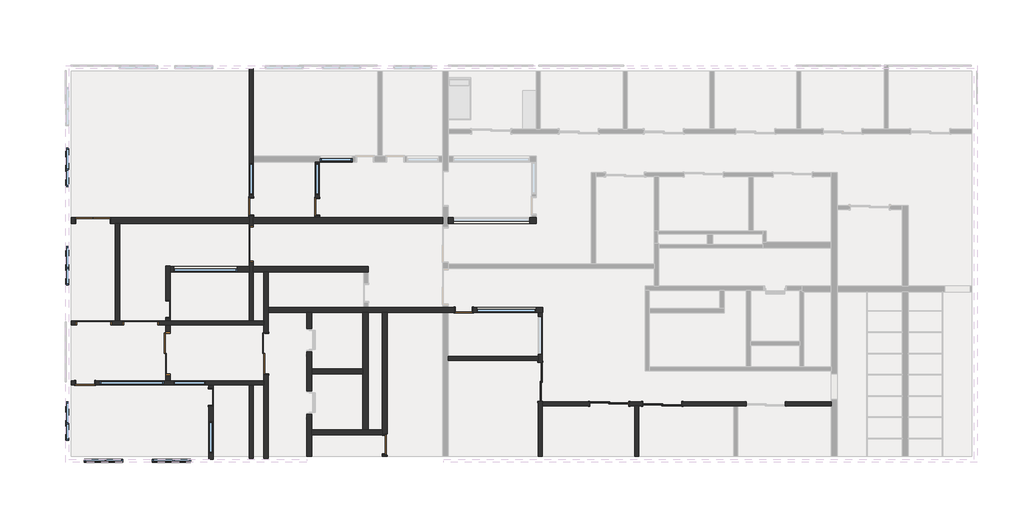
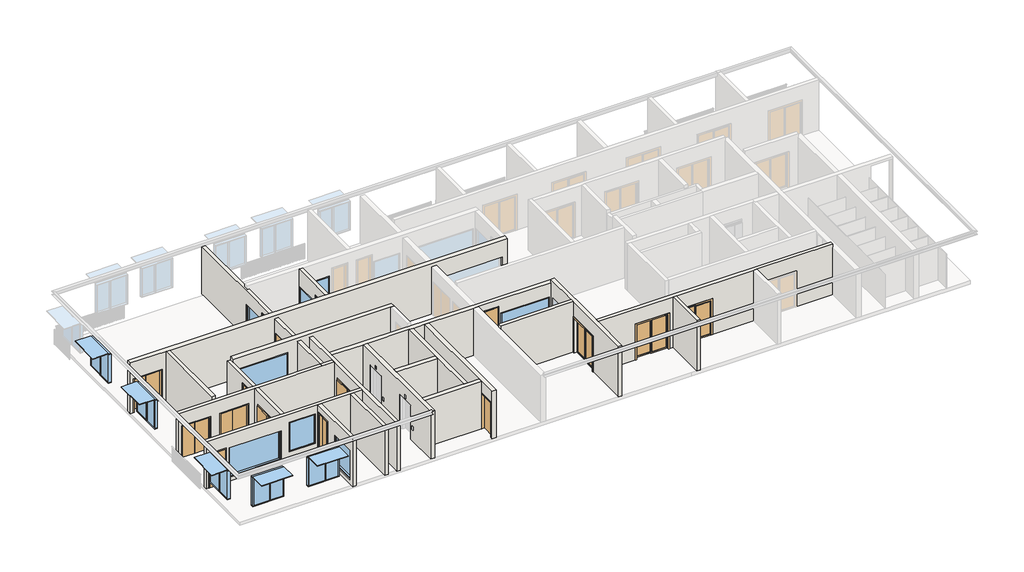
# One storey, part 1 of 5: 21 walls, 16 doors, 13 windows.
"""IFC4 building model written with IfcOpenShell, lengths in millimetres."""

from ifc_helpers import new_model, si_unit, frame, origin, place, context, project, spatial, polyline, outline, extrude, faceted_brep, transform, mapped, element, save
from components import sliding_2_panel_1830_x_2134mm_cc41b145, swing_double_aluminium_frame_door_2040x820x2_de6b5fd8, swing_double_aluminium_frame_door_2040x820x2_ba6f0609, swing_double_aluminium_frame_door_2040x820x2_040121c3, swing_double_metal_frame_double_2040_x_970x2_da7648d6, swing_metal_frame_single_dor_f6efc24d, swing_metal_frame_single_dor_45d69c81, swing_metal_frame_single_dor1_8b558513, swing_metal_frame_single_dor1_4c0ddaa6, swing_metal_frame_single_dor1_e173a355, window_bottom_hung_window_bottom_hung_3b05c637, window_fixed_1500mm_wide_9b338267, window_fixed_1500mm_wide_722047fe, window_fixed_2800mm_wide_54336a60, window_fixed_3000mm_wide_e2b4e5f3, window_fixed_3000mm_wide_c56ea942

model = new_model("IFC4")

# Units and contexts
model_context = context("Model", 3, world=origin())
ifc_project = project(units=[si_unit("LENGTHUNIT", "METRE", prefix="MILLI")], contexts=[model_context])

# Site, building, storey
site = spatial("IfcSite", under=ifc_project)
building = spatial("IfcBuilding", under=site)
storey = spatial("IfcBuildingStorey", under=building, Name="3階", Elevation=36100.0)

# Doors
placement = place(None, origin())
sliding_2_panel_1830_x_2134mm_shape = sliding_2_panel_1830_x_2134mm_cc41b145(model_context)
element("IfcDoor", 1, ObjectType="Sliding-2 Panel : 1830 x 2134mm", at=placement, inside=storey, context=model_context, shape_type="MappedRepresentation", body=[
    mapped(sliding_2_panel_1830_x_2134mm_shape, transform((24561.4034243, 3821.0253504, 36100.0), x_axis=(0.0, -1.0, 0.0), y_axis=(1.0, 0.0, 0.0), z_axis=(0.0, 0.0, 1.0))),
])
element("IfcDoor", 2, ObjectType="Sliding-2 Panel : 1830 x 2134mm", at=placement, inside=storey, context=model_context, shape_type="MappedRepresentation", body=[
    mapped(sliding_2_panel_1830_x_2134mm_shape, transform((27922.1585166, 2663.005792, 36100.0), x_axis=(1.0, 0.0, 0.0), y_axis=(0.0, 1.0, 0.0), z_axis=(0.0, 0.0, 1.0))),
])
element("IfcDoor", 3, ObjectType="Sliding-2 Panel : 1830 x 2134mm", at=placement, inside=storey, context=model_context, shape_type="MappedRepresentation", body=[
    mapped(sliding_2_panel_1830_x_2134mm_shape, transform((30422.1585166, 2917.005792, 36100.0), x_axis=(-1.0, 0.0, 0.0), y_axis=(0.0, -1.0, 0.0), z_axis=(0.0, 0.0, 1.0))),
])
swing_double_aluminium_frame_door_2040x820x2_shape = swing_double_aluminium_frame_door_2040x820x2_de6b5fd8(model_context)
element("IfcDoor", 4, ObjectType="Swing_Double : Aluminium Frame Door 2040x820x2", at=placement, inside=storey, context=model_context, shape_type="MappedRepresentation", body=[
    mapped(swing_double_aluminium_frame_door_2040x820x2_shape, transform((6116.1057353, 6597.0008144, 36100.0), x_axis=(1.0, 0.0, 0.0), y_axis=(0.0, 1.0, 0.0), z_axis=(0.0, 0.0, 1.0))),
])
swing_double_aluminium_frame_door_2040x820x2_2_shape = swing_double_aluminium_frame_door_2040x820x2_ba6f0609(model_context)
element("IfcDoor", 5, ObjectType="Swing_Double : Aluminium Frame Door 2040x820x2", at=placement, inside=storey, context=model_context, shape_type="MappedRepresentation", body=[
    mapped(swing_double_aluminium_frame_door_2040x820x2_2_shape, transform((11094.6062665, 10104.2680774, 36100.0), x_axis=(0.0, -1.0, 0.0), y_axis=(1.0, 0.0, 0.0), z_axis=(0.0, 0.0, 1.0))),
])
element("IfcDoor", 6, ObjectType="Swing_Double : Aluminium Frame Door 2040x820x2", at=placement, inside=storey, context=model_context, shape_type="MappedRepresentation", body=[
    mapped(swing_double_aluminium_frame_door_2040x820x2_2_shape, transform((3473.1057353, 6597.0008144, 36100.0), x_axis=(-1.0, 0.0, 0.0), y_axis=(0.0, -1.0, 0.0), z_axis=(0.0, 0.0, 1.0))),
])
swing_double_aluminium_frame_door_2040x820x2_3_shape = swing_double_aluminium_frame_door_2040x820x2_040121c3(model_context)
element("IfcDoor", 7, ObjectType="Swing_Double : Aluminium Frame Door 2040x820x2", at=placement, inside=storey, context=model_context, shape_type="MappedRepresentation", body=[
    mapped(swing_double_aluminium_frame_door_2040x820x2_3_shape, transform((3866.1057353, 11415.7680774, 36100.0), x_axis=(1.0, 0.0, 0.0), y_axis=(0.0, 1.0, 0.0), z_axis=(0.0, 0.0, 1.0))),
])
swing_double_metal_frame_double_2040_x_970x2_shape = swing_double_metal_frame_double_2040_x_970x2_da7648d6(model_context)
element("IfcDoor", 8, ObjectType="Swing_Double : Metal Frame Double - 2040 x 970x2", at=placement, inside=storey, context=model_context, shape_type="MappedRepresentation", body=[
    mapped(swing_double_metal_frame_double_2040_x_970x2_shape, transform((11794.6062665, 4947.7678956, 36100.0), x_axis=(0.0, -1.0, 0.0), y_axis=(1.0, 0.0, 0.0), z_axis=(0.0, 0.0, 1.0))),
])
element("IfcDoor", 9, ObjectType="Swing_Double : Metal Frame Double - 2040 x 970x2", at=placement, inside=storey, context=model_context, shape_type="MappedRepresentation", body=[
    mapped(swing_double_metal_frame_double_2040_x_970x2_shape, transform((7179.6062665, 4947.7678956, 36100.0), x_axis=(0.0, -1.0, 0.0), y_axis=(1.0, 0.0, 0.0), z_axis=(0.0, 0.0, 1.0))),
])
swing_metal_frame_single_dor_shape = swing_metal_frame_single_dor_f6efc24d(model_context)
element("IfcDoor", 10, ObjectType="Swing_Metal Frame_Single_DOR : 2140h x 920 (2210x1010 BLK)", at=placement, inside=storey, context=model_context, shape_type="MappedRepresentation", body=[
    mapped(swing_metal_frame_single_dor_shape, transform((17369.6062665, 870.0, 36100.0), x_axis=(0.0, 1.0, 0.0), y_axis=(-1.0, 0.0, 0.0), z_axis=(0.0, 0.0, 1.0))),
])
swing_metal_frame_single_dor_2_shape = swing_metal_frame_single_dor_45d69c81(model_context)
element("IfcDoor", 11, ObjectType="Swing_Metal Frame_Single_DOR : 2040h x 920 (2110x1020 STUD)", at=placement, inside=storey, context=model_context, shape_type="MappedRepresentation", body=[
    mapped(swing_metal_frame_single_dor_2_shape, transform((3284.6057353, 3773.0, 36100.0), x_axis=(1.0, 0.0, 0.0), y_axis=(0.0, 1.0, 0.0), z_axis=(0.0, 0.0, 1.0))),
])
swing_metal_frame_single_dor1_shape = swing_metal_frame_single_dor1_8b558513(model_context)
element("IfcDoor", 12, ObjectType="Swing_Metal Frame_Single_DOR1 : 2040h x 820 (2110x920 STUD)", at=placement, inside=storey, context=model_context, shape_type="MappedRepresentation", body=[
    mapped(swing_metal_frame_single_dor1_shape, transform((11094.6062665, 12075.7680774, 36100.0), x_axis=(0.0, 1.0, 0.0), y_axis=(-1.0, 0.0, 0.0), z_axis=(0.0, 0.0, 1.0))),
])
element("IfcDoor", 13, ObjectType="Swing_Metal Frame_Single_DOR1 : 2040h x 820 (2110x920 STUD)", at=placement, inside=storey, context=model_context, shape_type="MappedRepresentation", body=[
    mapped(swing_metal_frame_single_dor1_shape, transform((9199.7452287, 3113.0, 36100.0), x_axis=(0.0, -1.0, 0.0), y_axis=(1.0, 0.0, 0.0), z_axis=(0.0, 0.0, 1.0))),
])
element("IfcDoor", 14, ObjectType="Swing_Metal Frame_Single_DOR1 : 2040h x 820 (2110x920 STUD)", at=placement, inside=storey, context=model_context, shape_type="MappedRepresentation", body=[
    mapped(swing_metal_frame_single_dor1_shape, transform((14194.6062665, 12065.7680774, 36100.0), x_axis=(0.0, 1.0, 0.0), y_axis=(-1.0, 0.0, 0.0), z_axis=(0.0, 0.0, 1.0))),
])
swing_metal_frame_single_dor1_2_shape = swing_metal_frame_single_dor1_4c0ddaa6(model_context)
element("IfcDoor", 15, ObjectType="Swing_Metal Frame_Single_DOR1 : 2040h x 820 (2110x920 STUD)", at=placement, inside=storey, context=model_context, shape_type="MappedRepresentation", body=[
    mapped(swing_metal_frame_single_dor1_2_shape, transform((7179.6062665, 7251.2680774, 36100.0), x_axis=(0.0, 1.0, 0.0), y_axis=(-1.0, 0.0, 0.0), z_axis=(0.0, 0.0, 1.0))),
])
swing_metal_frame_single_dor1_3_shape = swing_metal_frame_single_dor1_e173a355(model_context)
element("IfcDoor", 16, ObjectType="Swing_Metal Frame_Single_DOR1 : 2040h x 820 (2110x920 STUD)", at=placement, inside=storey, context=model_context, shape_type="MappedRepresentation", body=[
    mapped(swing_metal_frame_single_dor1_3_shape, transform((21088.4034243, 7210.0, 36100.0), x_axis=(1.0, 0.0, 0.0), y_axis=(0.0, 1.0, 0.0), z_axis=(0.0, 0.0, 1.0))),
])

# Walls
element("IfcWall", 17, ObjectType="Brickwork_Double_270mm", at=placement, inside=storey, context=model_context, shape_type="Brep", body=[
    faceted_brep([(16594.6062665, 8996.2680774, 39200.0), (16394.6062665, 8996.2680774, 39200.0), (7279.6062665, 8996.2680774, 39200.0), (7279.6062665, 8996.2680774, 36100.0), (10994.6062665, 8996.2680774, 36100.0), (10994.6062665, 8996.2680774, 39000.0), (11194.6062665, 8996.2680774, 39000.0), (11194.6062665, 8996.2680774, 36100.0), (16394.6062665, 8996.2680774, 36100.0), (16594.6062665, 8996.2680774, 36100.0), (10439.6062665, 8996.2680774, 38500.0), (10439.6062665, 8996.2680774, 36700.0), (7439.6062665, 8996.2680774, 36700.0), (7439.6062665, 8996.2680774, 38500.0), (7279.6062665, 9266.2680774, 39200.0), (16594.6062665, 9266.2680774, 39200.0), (16594.6062665, 9266.2680774, 36100.0), (11194.6062665, 9266.2680774, 36100.0), (11194.6062665, 9266.2680774, 39000.0), (10994.6062665, 9266.2680774, 39000.0), (10994.6062665, 9266.2680774, 36100.0), (7279.6062665, 9266.2680774, 36100.0), (10439.6062665, 9266.2680774, 36700.0), (10439.6062665, 9266.2680774, 38500.0), (7439.6062665, 9266.2680774, 38500.0), (7439.6062665, 9266.2680774, 36700.0)], [[[0, 1, 2, 3, 4, 5, 6, 7, 8, 9], [10, 11, 12, 13]], [[14, 15, 16, 17, 18, 19, 20, 21], [22, 23, 24, 25]], [[3, 21, 20, 4]], [[16, 9, 8, 7, 17]], [[2, 1, 0, 15, 14]], [[6, 18, 17, 7]], [[18, 6, 5, 19]], [[19, 5, 4, 20]], [[3, 2, 14, 21]], [[11, 10, 23, 22]], [[10, 13, 24, 23]], [[13, 12, 25, 24]], [[0, 9, 16, 15]], [[11, 22, 25, 12]]]),
])
element("IfcWall", 18, ObjectType="Brickwork_Double_270mm", at=placement, inside=storey, context=model_context, shape_type="Brep", body=[
    faceted_brep([(24488.4034243, 11280.7680774, 39200.0), (4904.6057353, 11280.7680774, 39200.0), (4704.6057353, 11280.7680774, 39200.0), (2639.6057353, 11280.7680774, 39200.0), (2639.6057353, 11280.7680774, 36100.0), (2813.6057353, 11280.7680774, 36100.0), (2813.6057353, 11280.7680774, 38181.0), (4495.6057353, 11280.7680774, 38181.0), (4495.6057353, 11280.7680774, 36100.0), (4704.6057353, 11280.7680774, 36100.0), (4904.6057353, 11280.7680774, 36100.0), (10994.6062665, 11280.7680774, 36100.0), (10994.6062665, 11280.7680774, 39000.0), (11194.6062665, 11280.7680774, 39000.0), (11194.6062665, 11280.7680774, 36100.0), (20094.6062665, 11280.7680774, 36100.0), (20094.6062665, 11280.7680774, 39000.0), (20364.6062665, 11280.7680774, 39000.0), (20364.6062665, 11280.7680774, 36100.0), (24488.4034243, 11280.7680774, 36100.0), (20588.4034243, 11280.7680774, 36350.0), (20588.4034243, 11280.7680774, 38150.0), (24188.4034243, 11280.7680774, 38150.0), (24188.4034243, 11280.7680774, 36350.0), (2639.6057353, 11550.7680774, 39200.0), (14094.6062665, 11550.7680774, 39200.0), (14294.6062665, 11550.7680774, 39200.0), (24288.4034243, 11550.7680774, 39200.0), (24488.4034243, 11550.7680774, 39200.0), (24488.4034243, 11550.7680774, 36100.0), (24288.4034243, 11550.7680774, 36100.0), (20364.6062665, 11550.7680774, 36100.0), (20364.6062665, 11550.7680774, 39000.0), (20094.6062665, 11550.7680774, 39000.0), (20094.6062665, 11550.7680774, 36100.0), (14294.6062665, 11550.7680774, 36100.0), (14094.6062665, 11550.7680774, 36100.0), (11194.6062665, 11550.7680774, 36100.0), (11194.6062665, 11550.7680774, 39000.0), (10994.6062665, 11550.7680774, 39000.0), (10994.6062665, 11550.7680774, 36100.0), (4495.6057353, 11550.7680774, 36100.0), (4495.6057353, 11550.7680774, 38181.0), (2813.6057353, 11550.7680774, 38181.0), (2813.6057353, 11550.7680774, 36100.0), (2639.6057353, 11550.7680774, 36100.0), (20588.4034243, 11550.7680774, 38150.0), (20588.4034243, 11550.7680774, 36350.0), (24188.4034243, 11550.7680774, 36350.0), (24188.4034243, 11550.7680774, 38150.0)], [[[0, 1, 2, 3, 4, 5, 6, 7, 8, 9, 10, 11, 12, 13, 14, 15, 16, 17, 18, 19], [20, 21, 22, 23]], [[24, 25, 26, 27, 28, 29, 30, 31, 32, 33, 34, 35, 36, 37, 38, 39, 40, 41, 42, 43, 44, 45], [46, 47, 48, 49]], [[4, 45, 44, 5]], [[40, 11, 10, 9, 8, 41]], [[14, 37, 36, 35, 34, 15]], [[29, 19, 18, 31, 30]], [[3, 2, 1, 0, 28, 27, 26, 25, 24]], [[4, 3, 24, 45]], [[13, 38, 37, 14]], [[39, 12, 11, 40]], [[38, 13, 12, 39]], [[6, 5, 44, 43]], [[7, 6, 43, 42]], [[8, 7, 42, 41]], [[33, 16, 15, 34]], [[16, 33, 32, 17]], [[17, 32, 31, 18]], [[0, 19, 29, 28]], [[21, 20, 47, 46]], [[22, 21, 46, 49]], [[23, 22, 49, 48]], [[20, 23, 48, 47]]]),
])
element("IfcWall", 19, ObjectType="C1 - Concrete Type 2", at=placement, inside=storey, context=model_context, shape_type="Brep", body=[
    faceted_brep([(4525.6057353, 6497.0008144, 38181.0), (4525.6057353, 6497.0008144, 36100.0), (5063.6057353, 6497.0008144, 36100.0), (5063.6057353, 6497.0008144, 38181.0), (6745.6057353, 6497.0008144, 38181.0), (6745.6057353, 6497.0008144, 36100.0), (7079.6062665, 6497.0008144, 36100.0), (7279.6062665, 6497.0008144, 36100.0), (11694.6062665, 6497.0008144, 36100.0), (11694.6062665, 6497.0008144, 39000.0), (7279.6062665, 6497.0008144, 39000.0), (7079.6062665, 6497.0008144, 39000.0), (2639.6057353, 6497.0008144, 39000.0), (2639.6057353, 6497.0008144, 36100.0), (2843.6057353, 6497.0008144, 36100.0), (2843.6057353, 6497.0008144, 38181.0), (5063.6057353, 6697.0008144, 36100.0), (4904.6057353, 6697.0008144, 36100.0), (4704.6057353, 6697.0008144, 36100.0), (4525.6057353, 6697.0008144, 36100.0), (4525.6057353, 6697.0008144, 38181.0), (2843.6057353, 6697.0008144, 38181.0), (2843.6057353, 6697.0008144, 36100.0), (2639.6057353, 6697.0008144, 36100.0), (2639.6057353, 6697.0008144, 39000.0), (7079.6062665, 6697.0008144, 39000.0), (7279.6062665, 6697.0008144, 39000.0), (11694.6062665, 6697.0008144, 39000.0), (11694.6062665, 6697.0008144, 36100.0), (7279.6062665, 6697.0008144, 36100.0), (7079.6062665, 6697.0008144, 36100.0), (6745.6057353, 6697.0008144, 36100.0), (6745.6057353, 6697.0008144, 38181.0), (5063.6057353, 6697.0008144, 38181.0)], [[[0, 1, 2, 3, 4, 5, 6, 7, 8, 9, 10, 11, 12, 13, 14, 15]], [[16, 17, 18, 19, 20, 21, 22, 23, 24, 25, 26, 27, 28, 29, 30, 31, 32, 33]], [[14, 13, 23, 22]], [[2, 1, 19, 18, 17, 16]], [[31, 30, 29, 28, 8, 7, 6, 5]], [[12, 11, 10, 9, 27, 26, 25, 24]], [[9, 8, 28, 27]], [[13, 12, 24, 23]], [[3, 2, 16, 33]], [[4, 3, 33, 32]], [[5, 4, 32, 31]], [[20, 19, 1, 0]], [[21, 20, 0, 15]], [[22, 21, 15, 14]]]),
])
element("IfcWall", 20, ObjectType="C1 - Concrete Type 2", at=placement, inside=storey, context=model_context, shape_type="Brep", body=[
    faceted_brep([(11194.6062665, 18575.0, 36100.0), (11194.6062665, 18575.0, 39000.0), (11194.6062665, 14450.7680774, 39000.0), (11194.6062665, 14180.7680774, 39000.0), (11194.6062665, 11550.7680774, 39000.0), (11194.6062665, 11280.7680774, 39000.0), (11194.6062665, 9266.2680774, 39000.0), (11194.6062665, 8996.2680774, 39000.0), (11194.6062665, 6497.0008144, 39000.0), (11194.6062665, 6497.0008144, 36100.0), (11194.6062665, 8996.2680774, 36100.0), (11194.6062665, 9266.2680774, 36100.0), (11194.6062665, 9474.7680774, 36100.0), (11194.6062665, 9474.7680774, 38181.0), (11194.6062665, 11156.7680774, 38181.0), (11194.6062665, 11156.7680774, 36100.0), (11194.6062665, 11280.7680774, 36100.0), (11194.6062665, 11550.7680774, 36100.0), (11194.6062665, 11635.7680774, 36100.0), (11194.6062665, 11635.7680774, 38590.0), (11194.6062665, 12515.7680774, 38590.0), (11194.6062665, 12515.7680774, 36100.0), (11194.6062665, 14180.7680774, 36100.0), (11194.6062665, 14450.7680774, 36100.0), (11194.6062665, 14125.7680774, 36350.0), (11194.6062665, 12625.7680774, 36350.0), (11194.6062665, 12625.7680774, 38150.0), (11194.6062665, 14125.7680774, 38150.0), (10994.6062665, 18575.0, 39000.0), (10994.6062665, 18575.0, 36100.0), (10994.6062665, 12515.7680774, 36100.0), (10994.6062665, 12515.7680774, 38590.0), (10994.6062665, 11635.7680774, 38590.0), (10994.6062665, 11635.7680774, 36100.0), (10994.6062665, 11550.7680774, 36100.0), (10994.6062665, 11280.7680774, 36100.0), (10994.6062665, 11156.7680774, 36100.0), (10994.6062665, 11156.7680774, 38181.0), (10994.6062665, 9474.7680774, 38181.0), (10994.6062665, 9474.7680774, 36100.0), (10994.6062665, 9266.2680774, 36100.0), (10994.6062665, 8996.2680774, 36100.0), (10994.6062665, 6497.0008144, 36100.0), (10994.6062665, 6497.0008144, 39000.0), (10994.6062665, 8996.2680774, 39000.0), (10994.6062665, 9266.2680774, 39000.0), (10994.6062665, 11280.7680774, 39000.0), (10994.6062665, 11550.7680774, 39000.0), (10994.6062665, 14125.7680774, 36350.0), (10994.6062665, 14125.7680774, 38150.0), (10994.6062665, 12625.7680774, 38150.0), (10994.6062665, 12625.7680774, 36350.0)], [[[0, 1, 2, 3, 4, 5, 6, 7, 8, 9, 10, 11, 12, 13, 14, 15, 16, 17, 18, 19, 20, 21, 22, 23], [24, 25, 26, 27]], [[28, 29, 30, 31, 32, 33, 34, 35, 36, 37, 38, 39, 40, 41, 42, 43, 44, 45, 46, 47], [48, 49, 50, 51]], [[29, 0, 23, 22, 21, 30]], [[9, 42, 41, 40, 39, 12, 11, 10]], [[15, 36, 35, 34, 33, 18, 17, 16]], [[1, 0, 29, 28]], [[8, 7, 6, 5, 4, 3, 2, 1, 28, 47, 46, 45, 44, 43]], [[9, 8, 43, 42]], [[37, 36, 15, 14]], [[38, 37, 14, 13]], [[39, 38, 13, 12]], [[20, 31, 30, 21]], [[31, 20, 19, 32]], [[32, 19, 18, 33]], [[49, 48, 24, 27]], [[50, 49, 27, 26]], [[51, 50, 26, 25]], [[48, 51, 25, 24]]]),
])
element("IfcWall", 21, ObjectType="C1 - Concrete Type 2", at=placement, inside=storey, context=model_context, shape_type="Brep", body=[
    faceted_brep([(11694.6062665, 3673.0, 39000.0), (2639.6057353, 3673.0, 39000.0), (2639.6057353, 3673.0, 36100.0), (2794.6057353, 3673.0, 36100.0), (2794.6057353, 3673.0, 38190.0), (3774.6057353, 3673.0, 38190.0), (3774.6057353, 3673.0, 36100.0), (11694.6062665, 3673.0, 36100.0), (8944.6062665, 3673.0, 38500.0), (8944.6062665, 3673.0, 36700.0), (7444.6062665, 3673.0, 36700.0), (7444.6062665, 3673.0, 38500.0), (3974.6062665, 3673.0, 36350.0), (3974.6062665, 3673.0, 38150.0), (6974.6062665, 3673.0, 38150.0), (6974.6062665, 3673.0, 36350.0), (2639.6057353, 3873.0, 39000.0), (7079.6062665, 3873.0, 39000.0), (7279.6062665, 3873.0, 39000.0), (11694.6062665, 3873.0, 39000.0), (11694.6062665, 3873.0, 36100.0), (7279.6062665, 3873.0, 36100.0), (7079.6062665, 3873.0, 36100.0), (3774.6057353, 3873.0, 36100.0), (3774.6057353, 3873.0, 38190.0), (2794.6057353, 3873.0, 38190.0), (2794.6057353, 3873.0, 36100.0), (2639.6057353, 3873.0, 36100.0), (8944.6062665, 3873.0, 36700.0), (8944.6062665, 3873.0, 38500.0), (7444.6062665, 3873.0, 38500.0), (7444.6062665, 3873.0, 36700.0), (3974.6062665, 3873.0, 38150.0), (3974.6062665, 3873.0, 36350.0), (6974.6062665, 3873.0, 36350.0), (6974.6062665, 3873.0, 38150.0)], [[[0, 1, 2, 3, 4, 5, 6, 7], [8, 9, 10, 11], [12, 13, 14, 15]], [[16, 17, 18, 19, 20, 21, 22, 23, 24, 25, 26, 27], [28, 29, 30, 31], [32, 33, 34, 35]], [[20, 7, 6, 23, 22, 21]], [[2, 27, 26, 3]], [[1, 0, 19, 18, 17, 16]], [[0, 7, 20, 19]], [[2, 1, 16, 27]], [[5, 24, 23, 6]], [[24, 5, 4, 25]], [[25, 4, 3, 26]], [[28, 9, 8, 29]], [[29, 8, 11, 30]], [[30, 11, 10, 31]], [[9, 28, 31, 10]], [[12, 33, 32, 13]], [[13, 32, 35, 14]], [[34, 15, 14, 35]], [[33, 12, 15, 34]]]),
])
element("IfcWall", 22, ObjectType="C1 - Concrete Type 2", at=placement, inside=storey, context=model_context, shape_type="SweptSolid", body=[
    extrude(outline(polyline([(11194.6062665, 3873.0), (11194.6062665, 235.0), (10994.6062665, 235.0), (10994.6062665, 3873.0), (11194.6062665, 3873.0)])), frame((0.0, 0.0, 36100.0), z_axis=(0.0, 0.0, 1.0), x_axis=(1.0, 0.0, 0.0)), (0.0, 0.0, 1.0), 2900.0),
])
element("IfcWall", 23, ObjectType="C1 - Concrete Type 2", at=placement, inside=storey, context=model_context, shape_type="Brep", body=[
    faceted_brep([(11894.6062665, 8997.0008144, 36100.0), (11894.6062665, 8997.0008144, 39000.0), (11894.6062665, 7335.0, 39000.0), (11894.6062665, 7085.0, 39000.0), (11894.6062665, 235.0, 39000.0), (11894.6062665, 235.0, 36100.0), (11894.6062665, 4159.2678956, 36100.0), (11894.6062665, 4159.2678956, 38190.0), (11894.6062665, 6159.2678956, 38190.0), (11894.6062665, 6159.2678956, 36100.0), (11894.6062665, 7085.0, 36100.0), (11894.6062665, 7335.0, 36100.0), (11694.6062665, 8997.0008144, 39000.0), (11694.6062665, 8997.0008144, 36100.0), (11694.6062665, 6697.0008144, 36100.0), (11694.6062665, 6497.0008144, 36100.0), (11694.6062665, 6159.2678956, 36100.0), (11694.6062665, 6159.2678956, 38190.0), (11694.6062665, 4159.2678956, 38190.0), (11694.6062665, 4159.2678956, 36100.0), (11694.6062665, 3873.0, 36100.0), (11694.6062665, 3673.0, 36100.0), (11694.6062665, 235.0, 36100.0), (11694.6062665, 235.0, 39000.0), (11694.6062665, 3673.0, 39000.0), (11694.6062665, 3873.0, 39000.0), (11694.6062665, 6497.0008144, 39000.0), (11694.6062665, 6697.0008144, 39000.0)], [[[0, 1, 2, 3, 4, 5, 6, 7, 8, 9, 10, 11]], [[12, 13, 14, 15, 16, 17, 18, 19, 20, 21, 22, 23, 24, 25, 26, 27]], [[13, 0, 11, 10, 9, 16, 15, 14]], [[5, 22, 21, 20, 19, 6]], [[1, 0, 13, 12]], [[4, 3, 2, 1, 12, 27, 26, 25, 24, 23]], [[5, 4, 23, 22]], [[8, 17, 16, 9]], [[17, 8, 7, 18]], [[18, 7, 6, 19]]]),
])
element("IfcWall", 24, ObjectType="C1 - Concrete Type 2", at=placement, inside=storey, context=model_context, shape_type="Brep", body=[
    faceted_brep([(7279.6062665, 9273.0, 36100.0), (7279.6062665, 9273.0, 39000.0), (7279.6062665, 6697.0008144, 39000.0), (7279.6062665, 6697.0008144, 36100.0), (7279.6062665, 6811.2680774, 36100.0), (7279.6062665, 6811.2680774, 38590.0), (7279.6062665, 7691.2680774, 38590.0), (7279.6062665, 7691.2680774, 36100.0), (7279.6062665, 8996.2680774, 36100.0), (7279.6062665, 9266.2680774, 36100.0), (7079.6062665, 9273.0, 39000.0), (7079.6062665, 9273.0, 36100.0), (7079.6062665, 7691.2680774, 36100.0), (7079.6062665, 7691.2680774, 38590.0), (7079.6062665, 6811.2680774, 38590.0), (7079.6062665, 6811.2680774, 36100.0), (7079.6062665, 6697.0008144, 36100.0), (7079.6062665, 6697.0008144, 39000.0)], [[[0, 1, 2, 3, 4, 5, 6, 7, 8, 9]], [[10, 11, 12, 13, 14, 15, 16, 17]], [[11, 0, 9, 8, 7, 12]], [[3, 16, 15, 4]], [[1, 0, 11, 10]], [[1, 10, 17, 2]], [[3, 2, 17, 16]], [[7, 6, 13, 12]], [[6, 5, 14, 13]], [[5, 4, 15, 14]]]),
    faceted_brep([(7279.6062665, 6159.2678956, 38190.0), (7279.6062665, 6159.2678956, 36100.0), (7279.6062665, 6497.0008144, 36100.0), (7279.6062665, 6497.0008144, 39000.0), (7279.6062665, 3873.0, 39000.0), (7279.6062665, 3873.0, 36100.0), (7279.6062665, 4159.2678956, 36100.0), (7279.6062665, 4159.2678956, 38190.0), (7079.6062665, 6159.2678956, 36100.0), (7079.6062665, 6159.2678956, 38190.0), (7079.6062665, 4159.2678956, 38190.0), (7079.6062665, 4159.2678956, 36100.0), (7079.6062665, 3873.0, 36100.0), (7079.6062665, 3873.0, 39000.0), (7079.6062665, 6497.0008144, 39000.0), (7079.6062665, 6497.0008144, 36100.0)], [[[0, 1, 2, 3, 4, 5, 6, 7]], [[8, 9, 10, 11, 12, 13, 14, 15]], [[1, 8, 15, 2]], [[11, 6, 5, 12]], [[3, 14, 13, 4]], [[1, 0, 9, 8]], [[0, 7, 10, 9]], [[7, 6, 11, 10]], [[3, 2, 15, 14]], [[5, 4, 13, 12]]]),
])
element("IfcWall", 25, ObjectType="C1 - Concrete Type 2", at=placement, inside=storey, context=model_context, shape_type="SweptSolid", body=[
    extrude(outline(polyline([(3773.0, 39000.0), (3773.0, 36100.0), (3553.0, 36100.0), (3553.0, 38590.0), (2673.0, 38590.0), (2673.0, 36100.0), (174.0898177, 36100.0), (174.0898177, 39000.0), (3773.0, 39000.0)]), holes=[polyline([(1963.0, 38150.0), (463.0, 38150.0), (463.0, 36350.0), (1963.0, 36350.0), (1963.0, 38150.0)])]), frame((9099.7452287, 0.0, 0.0), z_axis=(1.0, 0.0, 0.0), x_axis=(0.0, 1.0, 0.0)), (0.0, 0.0, 1.0), 200.0),
])
element("IfcWall", 26, ObjectType="C1 - Concrete Type 2", at=placement, inside=storey, context=model_context, shape_type="SweptSolid", body=[
    extrude(outline(polyline([(4904.6057353, 11280.7680774), (4904.6057353, 6697.0008144), (4704.6057353, 6697.0008144), (4704.6057353, 11280.7680774), (4904.6057353, 11280.7680774)])), frame((0.0, 0.0, 36100.0), z_axis=(0.0, 0.0, 1.0), x_axis=(1.0, 0.0, 0.0)), (0.0, 0.0, 1.0), 3100.0),
])
element("IfcWall", 27, ObjectType="C1 - Concrete Type 2", at=placement, inside=storey, context=model_context, shape_type="SweptSolid", body=[
    extrude(outline(polyline([(11550.7680774, 39200.0), (14180.7680774, 39200.0), (14180.7680774, 36100.0), (12505.7680774, 36100.0), (12505.7680774, 38590.0), (11625.7680774, 38590.0), (11625.7680774, 36100.0), (11550.7680774, 36100.0), (11550.7680774, 39200.0)]), holes=[polyline([(12625.7680774, 36350.0), (14125.7680774, 36350.0), (14125.7680774, 38150.0), (12625.7680774, 38150.0), (12625.7680774, 36350.0)])]), frame((14094.6062665, 0.0, 0.0), z_axis=(1.0, 0.0, 0.0), x_axis=(0.0, 1.0, 0.0)), (0.0, 0.0, 1.0), 200.0),
])
element("IfcWall", 28, ObjectType="C1 - Concrete Type 2", at=placement, inside=storey, context=model_context, shape_type="Brep", body=[
    faceted_brep([(34367.1585166, 2890.005792, 38234.0), (34367.1585166, 2890.005792, 36100.0), (31337.1585166, 2890.005792, 36100.0), (31337.1585166, 2890.005792, 38234.0), (29507.1585166, 2890.005792, 38234.0), (29507.1585166, 2890.005792, 36100.0), (28837.1585166, 2890.005792, 36100.0), (28837.1585166, 2890.005792, 38234.0), (27007.1585166, 2890.005792, 38234.0), (27007.1585166, 2890.005792, 36100.0), (24788.4034243, 2890.005792, 36100.0), (24788.4034243, 2890.005792, 39200.0), (38377.4654784, 2890.005792, 39200.0), (38377.4654784, 2890.005792, 36100.0), (36197.1585166, 2890.005792, 36100.0), (36197.1585166, 2890.005792, 38234.0), (31337.1585166, 2690.005792, 36100.0), (33782.1585166, 2690.005792, 36100.0), (33982.1585166, 2690.005792, 36100.0), (34367.1585166, 2690.005792, 36100.0), (34367.1585166, 2690.005792, 38234.0), (36197.1585166, 2690.005792, 38234.0), (36197.1585166, 2690.005792, 36100.0), (38377.4654784, 2690.005792, 36100.0), (38377.4654784, 2690.005792, 39200.0), (33982.1585166, 2690.005792, 39200.0), (33782.1585166, 2690.005792, 39200.0), (29322.1585166, 2690.005792, 39200.0), (29122.1585166, 2690.005792, 39200.0), (24788.4034243, 2690.005792, 39200.0), (24788.4034243, 2690.005792, 36100.0), (27007.1585166, 2690.005792, 36100.0), (27007.1585166, 2690.005792, 38234.0), (28837.1585166, 2690.005792, 38234.0), (28837.1585166, 2690.005792, 36100.0), (29122.1585166, 2690.005792, 36100.0), (29322.1585166, 2690.005792, 36100.0), (29507.1585166, 2690.005792, 36100.0), (29507.1585166, 2690.005792, 38234.0), (31337.1585166, 2690.005792, 38234.0)], [[[0, 1, 2, 3, 4, 5, 6, 7, 8, 9, 10, 11, 12, 13, 14, 15]], [[16, 17, 18, 19, 20, 21, 22, 23, 24, 25, 26, 27, 28, 29, 30, 31, 32, 33, 34, 35, 36, 37, 38, 39]], [[31, 30, 10, 9]], [[6, 5, 37, 36, 35, 34]], [[14, 13, 23, 22]], [[2, 1, 19, 18, 17, 16]], [[12, 11, 29, 28, 27, 26, 25, 24]], [[11, 10, 30, 29]], [[9, 8, 32, 31]], [[7, 6, 34, 33]], [[8, 7, 33, 32]], [[16, 39, 3, 2]], [[38, 37, 5, 4]], [[39, 38, 4, 3]], [[22, 21, 15, 14]], [[20, 19, 1, 0]], [[21, 20, 0, 15]], [[13, 12, 24, 23]]]),
])
element("IfcWall", 29, ObjectType="C1 - Concrete Type 2", at=placement, inside=storey, context=model_context, shape_type="Brep", body=[
    faceted_brep([(24788.4034243, 309.0898177, 36100.0), (24788.4034243, 2690.005792, 36100.0), (24788.4034243, 2890.005792, 36100.0), (24788.4034243, 2906.0253504, 36100.0), (24788.4034243, 2906.0253504, 38234.0), (24788.4034243, 4736.0253504, 38234.0), (24788.4034243, 4736.0253504, 36100.0), (24788.4034243, 7085.0, 36100.0), (24788.4034243, 7085.0, 39200.0), (24788.4034243, 2890.005792, 39200.0), (24788.4034243, 2690.005792, 39200.0), (24788.4034243, 309.0898177, 39200.0), (24788.4034243, 5111.0224544, 36350.0), (24788.4034243, 5111.0224544, 38150.0), (24788.4034243, 6911.0224544, 38150.0), (24788.4034243, 6911.0224544, 36350.0), (24588.4034243, 2906.0253504, 38234.0), (24588.4034243, 2906.0253504, 36100.0), (24588.4034243, 309.0898177, 36100.0), (24588.4034243, 309.0898177, 39200.0), (24588.4034243, 4832.0449088, 39200.0), (24588.4034243, 5032.0449088, 39200.0), (24588.4034243, 7085.0, 39200.0), (24588.4034243, 7085.0, 36100.0), (24588.4034243, 5032.0449088, 36100.0), (24588.4034243, 4832.0449088, 36100.0), (24588.4034243, 4736.0253504, 36100.0), (24588.4034243, 4736.0253504, 38234.0), (24588.4034243, 5111.0224544, 36350.0), (24588.4034243, 6911.0224544, 36350.0), (24588.4034243, 6911.0224544, 38150.0), (24588.4034243, 5111.0224544, 38150.0)], [[[0, 1, 2, 3, 4, 5, 6, 7, 8, 9, 10, 11], [12, 13, 14, 15]], [[16, 17, 18, 19, 20, 21, 22, 23, 24, 25, 26, 27], [28, 29, 30, 31]], [[18, 17, 3, 2, 1, 0]], [[26, 25, 24, 23, 7, 6]], [[11, 10, 9, 8, 22, 21, 20, 19]], [[0, 11, 19, 18]], [[8, 7, 23, 22]], [[13, 12, 28, 31]], [[14, 13, 31, 30]], [[15, 14, 30, 29]], [[12, 15, 29, 28]], [[6, 5, 27, 26]], [[4, 3, 17, 16]], [[5, 4, 16, 27]]]),
])
element("IfcWall", 30, ObjectType="C1 - Concrete Type 2", at=placement, inside=storey, context=model_context, shape_type="SweptSolid", body=[
    extrude(outline(polyline([(29122.1585166, 309.0898177), (29122.1585166, 2690.005792), (29322.1585166, 2690.005792), (29322.1585166, 309.0898177), (29122.1585166, 309.0898177)])), frame((0.0, 0.0, 36100.0), z_axis=(0.0, 0.0, 1.0), x_axis=(1.0, 0.0, 0.0)), (0.0, 0.0, 1.0), 3100.0),
])
element("IfcWall", 31, ObjectType="C1 - Concrete Type 2", at=placement, inside=storey, context=model_context, shape_type="SweptSolid", body=[
    extrude(outline(polyline([(20364.6062665, 5032.0449088), (24588.4034243, 5032.0449088), (24588.4034243, 4832.0449088), (20364.6062665, 4832.0449088), (20364.6062665, 5032.0449088)])), frame((0.0, 0.0, 36100.0), z_axis=(0.0, 0.0, 1.0), x_axis=(1.0, 0.0, 0.0)), (0.0, 0.0, 1.0), 3100.0),
])
element("IfcWall", 32, ObjectType="C1 - Concrete Type 3 - 250mm", at=placement, inside=storey, context=model_context, shape_type="Brep", body=[
    faceted_brep([(13944.6062665, 1325.0, 36100.0), (17244.6062665, 1325.0, 36100.0), (17244.6062665, 1325.0, 39000.0), (13944.6062665, 1325.0, 39000.0), (13944.6062665, 1575.0, 36100.0), (13944.6062665, 1575.0, 39000.0), (16344.6062665, 1575.0, 39000.0), (16594.6062665, 1575.0, 39000.0), (17244.6062665, 1575.0, 39000.0), (17244.6062665, 1575.0, 36100.0), (16594.6062665, 1575.0, 36100.0), (16344.6062665, 1575.0, 36100.0)], [[[0, 1, 2, 3]], [[4, 5, 6, 7, 8, 9, 10, 11]], [[1, 0, 4, 11, 10, 9]], [[3, 2, 8, 7, 6, 5]], [[2, 1, 9, 8]], [[0, 3, 5, 4]]]),
])
element("IfcWall", 33, ObjectType="C1 - Concrete Type 3 - 250mm", at=placement, inside=storey, context=model_context, shape_type="SweptSolid", body=[
    extrude(outline(polyline([(16344.6062665, 4195.0), (13944.6062665, 4195.0), (13944.6062665, 4445.0), (16344.6062665, 4445.0), (16344.6062665, 4195.0)])), frame((0.0, 0.0, 36100.0), z_axis=(0.0, 0.0, 1.0), x_axis=(1.0, 0.0, 0.0)), (0.0, 0.0, 1.0), 2900.0),
])
element("IfcWall", 34, ObjectType="C1 - Concrete Type 3 - 250mm", at=placement, inside=storey, context=model_context, shape_type="Brep", body=[
    faceted_brep([(16594.6062665, 1575.0, 36100.0), (16594.6062665, 7085.0, 36100.0), (16594.6062665, 7085.0, 39000.0), (16594.6062665, 1575.0, 39000.0), (16344.6062665, 1575.0, 36100.0), (16344.6062665, 1575.0, 39000.0), (16344.6062665, 4195.0, 39000.0), (16344.6062665, 4445.0, 39000.0), (16344.6062665, 7085.0, 39000.0), (16344.6062665, 7085.0, 36100.0), (16344.6062665, 4445.0, 36100.0), (16344.6062665, 4195.0, 36100.0)], [[[0, 1, 2, 3]], [[4, 5, 6, 7, 8, 9, 10, 11]], [[1, 0, 4, 11, 10, 9]], [[3, 2, 8, 7, 6, 5]], [[2, 1, 9, 8]], [[0, 3, 5, 4]]]),
])
element("IfcWall", 35, ObjectType="C1 - Concrete Type 3 - 250mm", at=placement, inside=storey, context=model_context, shape_type="Brep", body=[
    faceted_brep([(13944.6062665, 7085.0, 39000.0), (13944.6062665, 4445.0, 39000.0), (13944.6062665, 4195.0, 39000.0), (13944.6062665, 1575.0, 39000.0), (13944.6062665, 1325.0, 39000.0), (13944.6062665, 309.0898177, 39000.0), (13944.6062665, 309.0898177, 36100.0), (13944.6062665, 1325.0, 36100.0), (13944.6062665, 1575.0, 36100.0), (13944.6062665, 2295.0, 36100.0), (13944.6062665, 2295.0, 38200.0), (13944.6062665, 3395.0, 38200.0), (13944.6062665, 3395.0, 36100.0), (13944.6062665, 4195.0, 36100.0), (13944.6062665, 4445.0, 36100.0), (13944.6062665, 5245.0, 36100.0), (13944.6062665, 5245.0, 38200.0), (13944.6062665, 6345.0, 38200.0), (13944.6062665, 6345.0, 36100.0), (13944.6062665, 7085.0, 36100.0), (13694.6062665, 309.0898177, 39000.0), (13694.6062665, 7085.0, 39000.0), (13694.6062665, 7085.0, 36100.0), (13694.6062665, 6345.0, 36100.0), (13694.6062665, 6345.0, 38200.0), (13694.6062665, 5245.0, 38200.0), (13694.6062665, 5245.0, 36100.0), (13694.6062665, 3395.0, 36100.0), (13694.6062665, 3395.0, 38200.0), (13694.6062665, 2295.0, 38200.0), (13694.6062665, 2295.0, 36100.0), (13694.6062665, 309.0898177, 36100.0), (13694.6062665, 2165.0, 36800.0), (13694.6062665, 2165.0, 37000.0), (13694.6062665, 2065.0, 37000.0), (13694.6062665, 2065.0, 36800.0), (13694.6062665, 2895.0, 38300.0), (13694.6062665, 2895.0, 38500.0), (13694.6062665, 2795.0, 38500.0), (13694.6062665, 2795.0, 38300.0), (13694.6062665, 5115.0, 36800.0), (13694.6062665, 5115.0, 37000.0), (13694.6062665, 5015.0, 37000.0), (13694.6062665, 5015.0, 36800.0), (13694.6062665, 5845.0, 38300.0), (13694.6062665, 5845.0, 38500.0), (13694.6062665, 5745.0, 38500.0), (13694.6062665, 5745.0, 38300.0), (13714.6062665, 2165.0, 36800.0), (13714.6062665, 2065.0, 36800.0), (13714.6062665, 2065.0, 37000.0), (13714.6062665, 2165.0, 37000.0), (13714.6062665, 2895.0, 38300.0), (13714.6062665, 2795.0, 38300.0), (13714.6062665, 2795.0, 38500.0), (13714.6062665, 2895.0, 38500.0), (13714.6062665, 5115.0, 36800.0), (13714.6062665, 5015.0, 36800.0), (13714.6062665, 5015.0, 37000.0), (13714.6062665, 5115.0, 37000.0), (13714.6062665, 5845.0, 38300.0), (13714.6062665, 5745.0, 38300.0), (13714.6062665, 5745.0, 38500.0), (13714.6062665, 5845.0, 38500.0)], [[[0, 1, 2, 3, 4, 5, 6, 7, 8, 9, 10, 11, 12, 13, 14, 15, 16, 17, 18, 19]], [[20, 21, 22, 23, 24, 25, 26, 27, 28, 29, 30, 31], [32, 33, 34, 35], [36, 37, 38, 39], [40, 41, 42, 43], [44, 45, 46, 47]], [[12, 27, 26, 15, 14, 13]], [[22, 19, 18, 23]], [[9, 8, 7, 6, 31, 30]], [[5, 4, 3, 2, 1, 0, 21, 20]], [[29, 10, 9, 30]], [[11, 28, 27, 12]], [[10, 29, 28, 11]], [[48, 49, 50, 51]], [[48, 51, 33, 32]], [[51, 50, 34, 33]], [[50, 49, 35, 34]], [[49, 48, 32, 35]], [[52, 53, 54, 55]], [[52, 55, 37, 36]], [[55, 54, 38, 37]], [[54, 53, 39, 38]], [[53, 52, 36, 39]], [[25, 16, 15, 26]], [[17, 24, 23, 18]], [[16, 25, 24, 17]], [[56, 57, 58, 59]], [[56, 59, 41, 40]], [[59, 58, 42, 41]], [[58, 57, 43, 42]], [[57, 56, 40, 43]], [[60, 61, 62, 63]], [[60, 63, 45, 44]], [[63, 62, 46, 45]], [[62, 61, 47, 46]], [[61, 60, 44, 47]], [[0, 19, 22, 21]], [[6, 5, 20, 31]]]),
])
element("IfcWall", 36, ObjectType="C1 - Concrete Type 3 - 250mm", at=placement, inside=storey, context=model_context, shape_type="Brep", body=[
    faceted_brep([(17494.6062665, 7085.0, 39000.0), (17494.6062665, 309.0898177, 39000.0), (17494.6062665, 309.0898177, 36100.0), (17494.6062665, 360.0, 36100.0), (17494.6062665, 360.0, 38310.0), (17494.6062665, 1380.0, 38310.0), (17494.6062665, 1380.0, 36100.0), (17494.6062665, 7085.0, 36100.0), (17244.6062665, 309.0898177, 39000.0), (17244.6062665, 1325.0, 39000.0), (17244.6062665, 1575.0, 39000.0), (17244.6062665, 7085.0, 39000.0), (17244.6062665, 7085.0, 36100.0), (17244.6062665, 1575.0, 36100.0), (17244.6062665, 1380.0, 36100.0), (17244.6062665, 1380.0, 38310.0), (17244.6062665, 360.0, 38310.0), (17244.6062665, 360.0, 36100.0), (17244.6062665, 309.0898177, 36100.0)], [[[0, 1, 2, 3, 4, 5, 6, 7]], [[8, 9, 10, 11, 12, 13, 14, 15, 16, 17, 18]], [[2, 18, 17, 3]], [[12, 7, 6, 14, 13]], [[1, 0, 11, 10, 9, 8]], [[5, 15, 14, 6]], [[15, 5, 4, 16]], [[16, 4, 3, 17]], [[2, 1, 8, 18]], [[0, 7, 12, 11]]]),
])
element("IfcWall", 37, ObjectType="C1 - Concrete Type 3 - 250mm", at=placement, inside=storey, context=model_context, shape_type="Brep", body=[
    faceted_brep([(24794.6062665, 7085.0, 36100.0), (24794.6062665, 7085.0, 39000.0), (20364.6062665, 7085.0, 39000.0), (20094.6062665, 7085.0, 39000.0), (17494.6062665, 7085.0, 39000.0), (17244.6062665, 7085.0, 39000.0), (16594.6062665, 7085.0, 39000.0), (16344.6062665, 7085.0, 39000.0), (13944.6062665, 7085.0, 39000.0), (13694.6062665, 7085.0, 39000.0), (11894.6062665, 7085.0, 39000.0), (11894.6062665, 7085.0, 36100.0), (13694.6062665, 7085.0, 36100.0), (13944.6062665, 7085.0, 36100.0), (16344.6062665, 7085.0, 36100.0), (16594.6062665, 7085.0, 36100.0), (17244.6062665, 7085.0, 36100.0), (17494.6062665, 7085.0, 36100.0), (20094.6062665, 7085.0, 36100.0), (20364.6062665, 7085.0, 36100.0), (20648.4034243, 7085.0, 36100.0), (20648.4034243, 7085.0, 38590.0), (21528.4034243, 7085.0, 38590.0), (21528.4034243, 7085.0, 36100.0), (24588.4034243, 7085.0, 36100.0), (24788.4034243, 7085.0, 36100.0), (21688.4034243, 7085.0, 38150.0), (24488.4034243, 7085.0, 38150.0), (24488.4034243, 7085.0, 36350.0), (21688.4034243, 7085.0, 36350.0), (24794.6062665, 7335.0, 39000.0), (24794.6062665, 7335.0, 36100.0), (21528.4034243, 7335.0, 36100.0), (21528.4034243, 7335.0, 38590.0), (20648.4034243, 7335.0, 38590.0), (20648.4034243, 7335.0, 36100.0), (20364.6062665, 7335.0, 36100.0), (20094.6062665, 7335.0, 36100.0), (16594.6062665, 7335.0, 36100.0), (16394.6062665, 7335.0, 36100.0), (11894.6062665, 7335.0, 36100.0), (11894.6062665, 7335.0, 39000.0), (20094.6062665, 7335.0, 39000.0), (20364.6062665, 7335.0, 39000.0), (24488.4034243, 7335.0, 38150.0), (21688.4034243, 7335.0, 38150.0), (21688.4034243, 7335.0, 36350.0), (24488.4034243, 7335.0, 36350.0)], [[[0, 1, 2, 3, 4, 5, 6, 7, 8, 9, 10, 11, 12, 13, 14, 15, 16, 17, 18, 19, 20, 21, 22, 23, 24, 25], [26, 27, 28, 29]], [[30, 31, 32, 33, 34, 35, 36, 37, 38, 39, 40, 41, 42, 43], [44, 45, 46, 47]], [[31, 0, 25, 24, 23, 32]], [[11, 40, 39, 38, 37, 36, 35, 20, 19, 18, 17, 16, 15, 14, 13, 12]], [[1, 0, 31, 30]], [[10, 9, 8, 7, 6, 5, 4, 3, 2, 1, 30, 43, 42, 41]], [[11, 10, 41, 40]], [[22, 33, 32, 23]], [[33, 22, 21, 34]], [[34, 21, 20, 35]], [[44, 27, 26, 45]], [[45, 26, 29, 46]], [[46, 29, 28, 47]], [[27, 44, 47, 28]]]),
])

# Windows
window_bottom_hung_window_bottom_hung_shape = window_bottom_hung_window_bottom_hung_3b05c637(model_context)
element("IfcWindow", 38, ObjectType="Window_Bottom Hung : Window_Bottom Hung", at=placement, inside=storey, context=model_context, shape_type="MappedRepresentation", body=[
    mapped(window_bottom_hung_window_bottom_hung_shape, transform((2504.6057353, 9285.3166994, 36000.0), x_axis=(0.0, 1.0, 0.0), y_axis=(-1.0, 0.0, 0.0), z_axis=(0.0, 0.0, 1.0))),
])
element("IfcWindow", 39, ObjectType="Window_Bottom Hung : Window_Bottom Hung", at=placement, inside=storey, context=model_context, shape_type="MappedRepresentation", body=[
    mapped(window_bottom_hung_window_bottom_hung_shape, transform((2504.6057353, 13915.7680774, 36000.0), x_axis=(0.0, 1.0, 0.0), y_axis=(-1.0, 0.0, 0.0), z_axis=(0.0, 0.0, 1.0))),
])
element("IfcWindow", 40, ObjectType="Window_Bottom Hung : Window_Bottom Hung", at=placement, inside=storey, context=model_context, shape_type="MappedRepresentation", body=[
    mapped(window_bottom_hung_window_bottom_hung_shape, transform((4144.6057353, 174.0898177, 36000.0), x_axis=(-1.0, 0.0, 0.0), y_axis=(0.0, -1.0, 0.0), z_axis=(0.0, 0.0, 1.0))),
])
element("IfcWindow", 41, ObjectType="Window_Bottom Hung : Window_Bottom Hung", at=placement, inside=storey, context=model_context, shape_type="MappedRepresentation", body=[
    mapped(window_bottom_hung_window_bottom_hung_shape, transform((7344.6057353, 174.0898177, 36100.0), x_axis=(-1.0, 0.0, 0.0), y_axis=(0.0, -1.0, 0.0), z_axis=(0.0, 0.0, 1.0))),
])
element("IfcWindow", 42, ObjectType="Window_Bottom Hung : Window_Bottom Hung", at=placement, inside=storey, context=model_context, shape_type="MappedRepresentation", body=[
    mapped(window_bottom_hung_window_bottom_hung_shape, transform((2504.6057353, 1973.5449088, 36100.0), x_axis=(0.0, 1.0, 0.0), y_axis=(-1.0, 0.0, 0.0), z_axis=(0.0, 0.0, 1.0))),
])
window_fixed_1500mm_wide_shape = window_fixed_1500mm_wide_9b338267(model_context)
element("IfcWindow", 43, ObjectType="Window_Fixed : 1500mm Wide", at=placement, inside=storey, context=model_context, shape_type="MappedRepresentation", body=[
    mapped(window_fixed_1500mm_wide_shape, transform((15094.6062665, 14315.7680774, 36100.0), x_axis=(-1.0, 0.0, 0.0), y_axis=(0.0, -1.0, 0.0), z_axis=(0.0, 0.0, 1.0))),
])
window_fixed_1500mm_wide_2_shape = window_fixed_1500mm_wide_722047fe(model_context)
element("IfcWindow", 44, ObjectType="Window_Fixed : 1500mm Wide", at=placement, inside=storey, context=model_context, shape_type="MappedRepresentation", body=[
    mapped(window_fixed_1500mm_wide_2_shape, transform((8194.6062665, 3773.0, 36450.0), x_axis=(-1.0, 0.0, 0.0), y_axis=(0.0, -1.0, 0.0), z_axis=(0.0, 0.0, 1.0))),
])
element("IfcWindow", 45, ObjectType="Window_Fixed : 1500mm Wide", at=placement, inside=storey, context=model_context, shape_type="MappedRepresentation", body=[
    mapped(window_fixed_1500mm_wide_2_shape, transform((14194.6062665, 13375.7680774, 36100.0), x_axis=(0.0, 1.0, 0.0), y_axis=(-1.0, 0.0, 0.0), z_axis=(0.0, 0.0, 1.0))),
])
element("IfcWindow", 46, ObjectType="Window_Fixed : 1500mm Wide", at=placement, inside=storey, context=model_context, shape_type="MappedRepresentation", body=[
    mapped(window_fixed_1500mm_wide_2_shape, transform((11094.6062665, 13375.7680774, 36100.0), x_axis=(0.0, -1.0, 0.0), y_axis=(1.0, 0.0, 0.0), z_axis=(0.0, 0.0, 1.0))),
])
element("IfcWindow", 47, ObjectType="Window_Fixed : 1500mm Wide", at=placement, inside=storey, context=model_context, shape_type="MappedRepresentation", body=[
    mapped(window_fixed_1500mm_wide_2_shape, transform((9199.7452287, 1213.0, 36100.0), x_axis=(0.0, -1.0, 0.0), y_axis=(1.0, 0.0, 0.0), z_axis=(0.0, 0.0, 1.0))),
])
window_fixed_2800mm_wide_shape = window_fixed_2800mm_wide_54336a60(model_context)
element("IfcWindow", 48, ObjectType="Window_Fixed : 2800mm Wide", at=placement, inside=storey, context=model_context, shape_type="MappedRepresentation", body=[
    mapped(window_fixed_2800mm_wide_shape, transform((23088.4034243, 7210.0, 36100.0), x_axis=(-1.0, 0.0, 0.0), y_axis=(0.0, -1.0, 0.0), z_axis=(0.0, 0.0, 1.0))),
])
window_fixed_3000mm_wide_shape = window_fixed_3000mm_wide_e2b4e5f3(model_context)
element("IfcWindow", 49, ObjectType="Window_Fixed : 3000mm Wide", at=placement, inside=storey, context=model_context, shape_type="MappedRepresentation", body=[
    mapped(window_fixed_3000mm_wide_shape, transform((8939.6062665, 9131.2680774, 36450.0), x_axis=(-1.0, 0.0, 0.0), y_axis=(0.0, -1.0, 0.0), z_axis=(0.0, 0.0, 1.0))),
])
window_fixed_3000mm_wide_2_shape = window_fixed_3000mm_wide_c56ea942(model_context)
element("IfcWindow", 50, ObjectType="Window_Fixed : 3000mm Wide", at=placement, inside=storey, context=model_context, shape_type="MappedRepresentation", body=[
    mapped(window_fixed_3000mm_wide_2_shape, transform((5474.6062665, 3773.0, 36100.0), x_axis=(1.0, 0.0, 0.0), y_axis=(0.0, 1.0, 0.0), z_axis=(0.0, 0.0, 1.0))),
])

save(model, "model.ifc")
